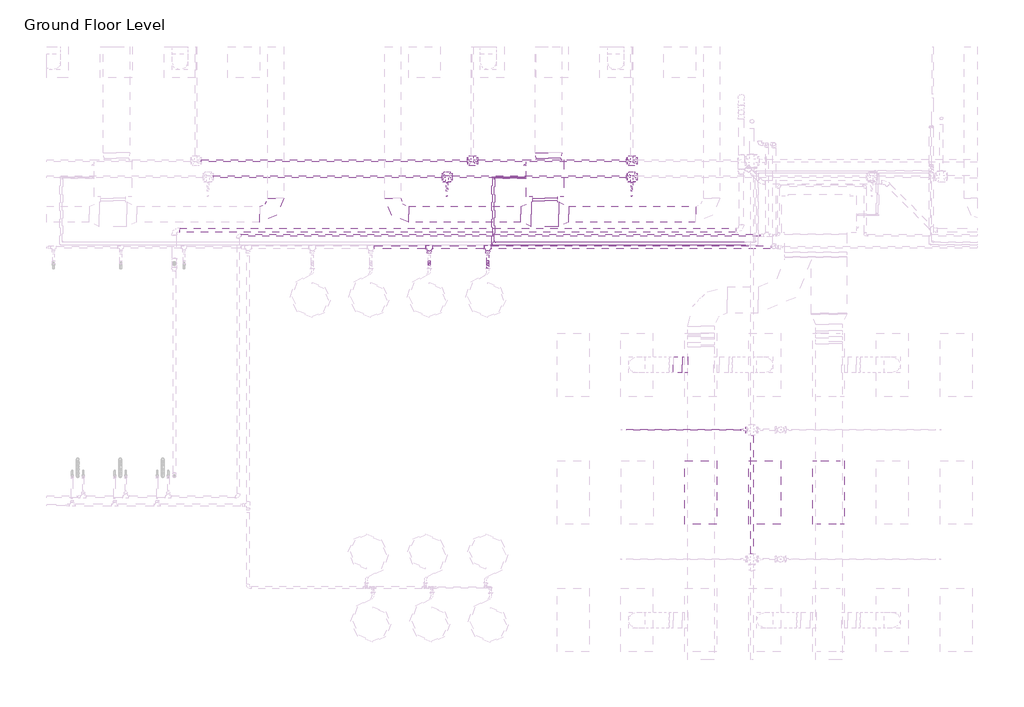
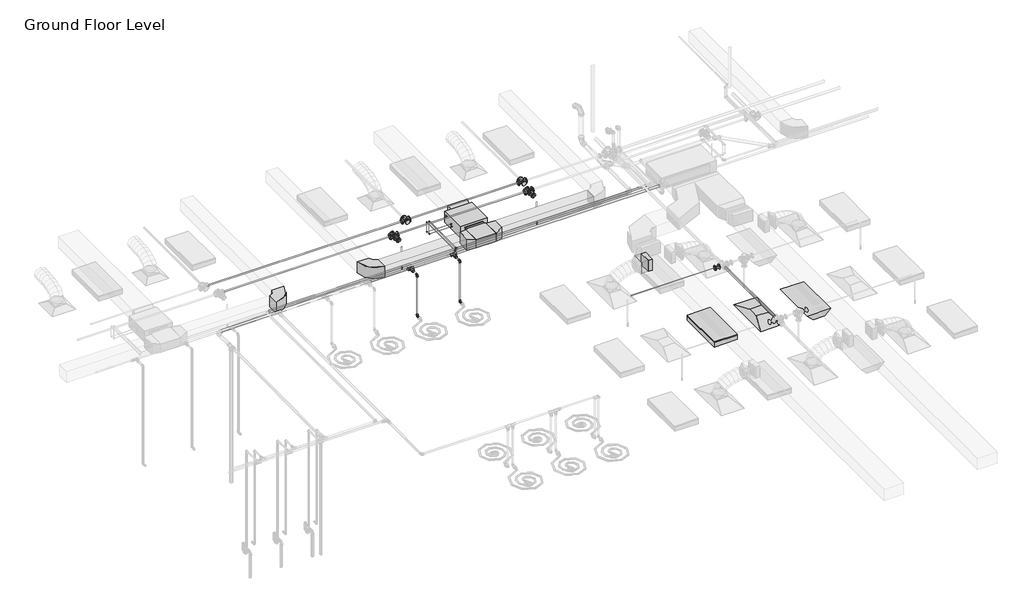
# One storey, part 48 of 74: 27 pipe segments, 21 pipe fittings, 9 duct fittings, 4 duct segments, 2 fire suppression terminals, 2 light fixtures, 1 air terminal, 1 proxy.
"""IFC4 building model written with IfcOpenShell, lengths in millimetres."""

from ifc_helpers import new_model, si_unit, point, frame, frame_2d, origin, place, context, project, spatial, polyline, circle_curve, trimmed, segment, composite_curve, outline, extrude, transform, mapped, element, save
from components import m_return_diffuser_1200x600_1200_x_600_face_300_x_300_d1983ef6, fcu_daikin_iu_bad131e0, m_rectangular_elbow_radius_1_w_618da153, m_rectangular_takeoff_standard_2be5eba1, m_rectangular_tee_standard_fa4de0e8, m_rectangular_transition_angle_45_degree_5a11b24e, m_rectangular_transition_angle_45_degree_27e6000f, m_rectangular_transition_angle_45_degree_1c32c0a1, m_rectangular_transition_angle_45_degree_6e5ad010, m_sprinkler_pendent_15_mm_pendent_06fcbd8e, m_emergency_recessed_lighting_fixture_600x1200_277_5b10b25d, m_troffer_light_parabolic_rectangular1_0600x1200mm_4_lamp_86473d4a, m_elbow_generic_standard_a088f956, m_elbow_generic_standard_2a704253, m_elbow_generic_standard_6b1a80c6, m_elbow_generic_standard_5542be81, m_reducer_flanged_cs_class_150_standard_ccf252ad, m_reducer_flanged_cs_class_150_standard_83138b42, m_tee_generic_standard_5b2ed4d4, m_tee_generic_standard_25a94648, m_tee_round_base_flanged_cs_class_150_standard_7e5987a1, standard_517a5a8d, standard_cd25fed3, standard_f1337950

model = new_model("IFC4")

# Units and contexts
model_context = context("Model", 3, world=origin())
ifc_project = project(units=[si_unit("LENGTHUNIT", "METRE", prefix="MILLI")], contexts=[model_context])

# Site, building, storey
site = spatial("IfcSite", under=ifc_project)
building = spatial("IfcBuilding", under=site)
storey = spatial("IfcBuildingStorey", under=building, Name="Ground Floor Level", Elevation=900.0)

# Air terminal
placement = place(None, origin())
m_return_diffuser_1200x600_1200_x_600_face_300_x_300_shape = m_return_diffuser_1200x600_1200_x_600_face_300_x_300_d1983ef6(model_context)
element("IfcAirTerminal", 1, ObjectType="M_Return Diffuser 1200x600 : 1200 x 600 Face 300 x 300 Connection", at=placement, inside=storey, context=model_context, shape_type="MappedRepresentation", body=[
    mapped(m_return_diffuser_1200x600_1200_x_600_face_300_x_300_shape, transform((-5737.2327605, 8835.2153534, 3650.0), x_axis=(0.0, 1.0, 0.0), y_axis=(-1.0, 0.0, 0.0), z_axis=(0.0, 0.0, 1.0))),
])

# Proxy
fcu_daikin_iu_shape = fcu_daikin_iu_bad131e0(model_context)
element("IfcBuildingElementProxy", 2, Name="FCU-DAIKIN IU : 4.5kW, 230V/50Hz/1Ph", ObjectType="FCU-DAIKIN IU : 4.5kW, 230V/50Hz/1Ph", at=placement, inside=storey, context=model_context, shape_type="MappedRepresentation", body=[
    mapped(fcu_daikin_iu_shape, transform((-9872.2327605, 14745.2153534, 3934.0872564), x_axis=(-1.0, 0.0, 0.0), y_axis=(0.0, -1.0, 0.0), z_axis=(0.0, 0.0, 1.0))),
])

# Duct fittings
m_rectangular_elbow_radius_1_w_shape = m_rectangular_elbow_radius_1_w_618da153(model_context)
element("IfcDuctFitting", 3, ObjectType="M_Rectangular Elbow - Radius : 1 W", at=placement, inside=storey, context=model_context, shape_type="MappedRepresentation", body=[
    mapped(m_rectangular_elbow_radius_1_w_shape, transform((-14937.2327605, 14069.8153534, 4075.2881511), x_axis=(1.0, 0.0, 0.0), y_axis=(0.0, 1.0, 0.0), z_axis=(0.0, 0.0, 1.0))),
])
element("IfcDuctFitting", 4, ObjectType="M_Rectangular Elbow - Radius : 1 W", at=placement, inside=storey, context=model_context, shape_type="MappedRepresentation", body=[
    mapped(m_rectangular_elbow_radius_1_w_shape, transform((-12737.2327605, 14069.8153534, 4075.2872564), x_axis=(0.0, -1.0, 0.0), y_axis=(1.0, 0.0, 0.0), z_axis=(0.0, 0.0, 1.0))),
])
m_rectangular_takeoff_standard_shape = m_rectangular_takeoff_standard_2be5eba1(model_context)
element("IfcDuctFitting", 5, ObjectType="M_Rectangular Takeoff : Standard", at=placement, inside=storey, context=model_context, shape_type="MappedRepresentation", body=[
    mapped(m_rectangular_takeoff_standard_shape, transform((-7189.6910789, 11235.2153534, 4150.0), x_axis=(-1.0, 0.0, 0.0), y_axis=(0.0, 1.0, 0.0), z_axis=(0.0, 0.0, -1.0))),
])
m_rectangular_tee_standard_shape = m_rectangular_tee_standard_fa4de0e8(model_context)
element("IfcDuctFitting", 6, ObjectType="M_Rectangular Tee : Standard", at=placement, inside=storey, context=model_context, shape_type="MappedRepresentation", body=[
    mapped(m_rectangular_tee_standard_shape, transform((-9872.2327605, 14069.8153534, 4075.2872564), x_axis=(-1.0, 0.0, 0.0), y_axis=(0.0, -1.0, 0.0), z_axis=(0.0, 0.0, 1.0))),
])
m_rectangular_transition_angle_45_degree_shape = m_rectangular_transition_angle_45_degree_5a11b24e(model_context)
element("IfcDuctFitting", 7, ObjectType="M_Rectangular Transition - Angle : 45 Degree", at=placement, inside=storey, context=model_context, shape_type="MappedRepresentation", body=[
    mapped(m_rectangular_transition_angle_45_degree_shape, transform((-9808.7327605, 15120.6153534, 4099.9997564), x_axis=(0.0, 1.0, 0.0), y_axis=(-1.0, 0.0, 0.0), z_axis=(0.0, 0.0, 1.0))),
])
m_rectangular_transition_angle_45_degree_2_shape = m_rectangular_transition_angle_45_degree_27e6000f(model_context)
element("IfcDuctFitting", 8, ObjectType="M_Rectangular Transition - Angle : 45 Degree", at=placement, inside=storey, context=model_context, shape_type="MappedRepresentation", body=[
    mapped(m_rectangular_transition_angle_45_degree_2_shape, transform((-9872.2327605, 14369.8153534, 4075.2872564), x_axis=(0.0, -1.0, 0.0), y_axis=(1.0, 0.0, 0.0), z_axis=(0.0, 0.0, 1.0))),
])
m_rectangular_transition_angle_45_degree_3_shape = m_rectangular_transition_angle_45_degree_1c32c0a1(model_context)
element("IfcDuctFitting", 9, ObjectType="M_Rectangular Transition - Angle : 45 Degree", at=placement, inside=storey, context=model_context, shape_type="MappedRepresentation", body=[
    mapped(m_rectangular_transition_angle_45_degree_3_shape, transform((-9872.2327605, 14326.1149854, 4075.2872564), x_axis=(0.0, -1.0, 0.0), y_axis=(1.0, 0.0, 0.0), z_axis=(0.0, 0.0, 1.0))),
])
m_rectangular_transition_angle_45_degree_4_shape = m_rectangular_transition_angle_45_degree_6e5ad010(model_context)
element("IfcDuctFitting", 10, ObjectType="M_Rectangular Transition - Angle : 45 Degree", at=placement, inside=storey, context=model_context, shape_type="MappedRepresentation", body=[
    mapped(m_rectangular_transition_angle_45_degree_4_shape, transform((-10128.1702605, 14069.8153534, 4075.2872564), x_axis=(-1.0, 0.0, 0.0), y_axis=(0.0, -1.0, 0.0), z_axis=(0.0, 0.0, 1.0))),
])
element("IfcDuctFitting", 11, ObjectType="M_Rectangular Transition - Angle : 45 Degree", at=placement, inside=storey, context=model_context, shape_type="MappedRepresentation", body=[
    mapped(m_rectangular_transition_angle_45_degree_4_shape, transform((-9616.2952605, 14069.8153534, 4075.2872564), x_axis=(1.0, 0.0, 0.0), y_axis=(0.0, 1.0, 0.0), z_axis=(0.0, 0.0, 1.0))),
])

# Duct segments
element("IfcDuctSegment", 12, ObjectType="Radius Elbows / Taps", at=placement, inside=storey, context=model_context, shape_type="SweptSolid", body=[
    extrude(outline(polyline([(-9420.8948503, 13919.8153534), (-9420.8948503, 14219.8153534), (-7037.2327605, 14219.8153534), (-7037.2327605, 13919.8153534), (-9420.8948503, 13919.8153534)])), frame((0.0, 0.0, 3925.2872564), z_axis=(0.0, 0.0, 1.0), x_axis=(1.0, 0.0, 0.0)), (0.0, 0.0, 1.0), 300.0),
])
element("IfcDuctSegment", 13, ObjectType="Radius Elbows / Taps", at=placement, inside=storey, context=model_context, shape_type="SweptSolid", body=[
    extrude(outline(polyline([(-12437.2327605, 13919.8153534), (-12437.2327605, 14219.8153534), (-10323.5706707, 14219.8153534), (-10323.5706707, 13919.8153534), (-12437.2327605, 13919.8153534)])), frame((0.0, 0.0, 3925.2872564), z_axis=(0.0, 0.0, 1.0), x_axis=(1.0, 0.0, 0.0)), (0.0, 0.0, 1.0), 300.0),
])
element("IfcDuctSegment", 14, ObjectType="Radius Elbows / Taps", at=placement, inside=storey, context=model_context, shape_type="SweptSolid", body=[
    extrude(outline(polyline([(-10103.2327605, 14369.4532214), (-9641.2327605, 14369.4532214), (-9641.2327605, 14326.1149854), (-10103.2327605, 14326.1149854), (-10103.2327605, 14369.4532214)])), frame((0.0, 0.0, 3968.2872564), z_axis=(0.0, 0.0, 1.0), x_axis=(1.0, 0.0, 0.0)), (0.0, 0.0, 1.0), 214.0),
])
element("IfcDuctSegment", 15, ObjectType="Radius Elbows / Taps", at=placement, inside=storey, context=model_context, shape_type="SweptSolid", body=[
    extrude(outline(polyline([(-7291.2910789, 11385.2153534), (-7291.2910789, 11085.2153534), (-7461.2487616, 11085.2153534), (-7461.2487616, 11385.2153534), (-7291.2910789, 11385.2153534)])), frame((0.0, 0.0, 4000.0), z_axis=(0.0, 0.0, 1.0), x_axis=(1.0, 0.0, 0.0)), (0.0, 0.0, 1.0), 300.0),
])

# Fire suppression terminals
m_sprinkler_pendent_15_mm_pendent_shape = m_sprinkler_pendent_15_mm_pendent_06fcbd8e(model_context)
element("IfcFireSuppressionTerminal", 16, ObjectType="M_Sprinkler - Pendent : 15 mm Pendent", at=placement, inside=storey, context=model_context, shape_type="MappedRepresentation", body=[
    mapped(m_sprinkler_pendent_15_mm_pendent_shape, transform((-11714.286216, 14412.7243649, 3650.0), x_axis=(1.0, 0.0, 0.0), y_axis=(0.0, 1.0, 0.0), z_axis=(0.0, 0.0, 1.0))),
])
element("IfcFireSuppressionTerminal", 17, ObjectType="M_Sprinkler - Pendent : 15 mm Pendent", at=placement, inside=storey, context=model_context, shape_type="MappedRepresentation", body=[
    mapped(m_sprinkler_pendent_15_mm_pendent_shape, transform((-8237.2327605, 14412.7243649, 3650.0), x_axis=(1.0, 0.0, 0.0), y_axis=(0.0, 1.0, 0.0), z_axis=(0.0, 0.0, 1.0))),
])

# Light fixtures
m_emergency_recessed_lighting_fixture_600x1200_277_shape = m_emergency_recessed_lighting_fixture_600x1200_277_5b10b25d(model_context)
element("IfcLightFixture", 18, ObjectType="M_Emergency Recessed Lighting Fixture : 600x1200 - 277", at=placement, inside=storey, context=model_context, shape_type="MappedRepresentation", body=[
    mapped(m_emergency_recessed_lighting_fixture_600x1200_277_shape, transform((-4837.2327605, 8235.2153534, 3650.0), x_axis=(0.0, 1.0, 0.0), y_axis=(-1.0, 0.0, 0.0), z_axis=(0.0, 0.0, 1.0))),
])
m_troffer_light_parabolic_rectangular1_0600x1200mm_4_lamp_shape = m_troffer_light_parabolic_rectangular1_0600x1200mm_4_lamp_86473d4a(model_context)
element("IfcLightFixture", 19, ObjectType="M_Troffer Light - Parabolic Rectangular1 : 0600x1200mm(4 Lamp) - 277V 2", at=placement, inside=storey, context=model_context, shape_type="MappedRepresentation", body=[
    mapped(m_troffer_light_parabolic_rectangular1_0600x1200mm_4_lamp_shape, transform((-6996.6986926, 8853.918855, 3650.0), x_axis=(0.0, 1.0, 0.0), y_axis=(-1.0, 0.0, 0.0), z_axis=(0.0, 0.0, 1.0))),
])

# Pipe fittings
m_elbow_generic_standard_shape = m_elbow_generic_standard_a088f956(model_context)
element("IfcPipeFitting", 20, ObjectType="M_Elbow - Generic : Standard", at=placement, inside=storey, context=model_context, shape_type="MappedRepresentation", body=[
    mapped(m_elbow_generic_standard_shape, transform((-10820.3327605, 14745.2153534, 4380.0), x_axis=(0.0, 0.0, 1.0), y_axis=(0.0, -1.0, 0.0), z_axis=(1.0, 0.0, 0.0))),
])
m_elbow_generic_standard_2_shape = m_elbow_generic_standard_2a704253(model_context)
element("IfcPipeFitting", 21, ObjectType="M_Elbow - Generic : Standard", at=placement, inside=storey, context=model_context, shape_type="MappedRepresentation", body=[
    mapped(m_elbow_generic_standard_2_shape, transform((-10870.0192947, 14770.2153534, 4365.0), x_axis=(0.0, 0.0, 1.0), y_axis=(0.0, -1.0, 0.0), z_axis=(1.0, 0.0, 0.0))),
])
m_elbow_generic_standard_3_shape = m_elbow_generic_standard_6b1a80c6(model_context)
element("IfcPipeFitting", 22, ObjectType="M_Elbow - Generic : Standard", at=placement, inside=storey, context=model_context, shape_type="MappedRepresentation", body=[
    mapped(m_elbow_generic_standard_3_shape, transform((-10820.3359808, 14745.2153534, 4034.0996164), x_axis=(-0.9999999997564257, 0.0, 2.2071440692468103e-05), y_axis=(2.2071440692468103e-05, 0.0, 0.9999999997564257), z_axis=(0.0, 1.0, 0.0))),
])
m_elbow_generic_standard_4_shape = m_elbow_generic_standard_5542be81(model_context)
element("IfcPipeFitting", 23, ObjectType="M_Elbow - Generic : Standard", at=placement, inside=storey, context=model_context, shape_type="MappedRepresentation", body=[
    mapped(m_elbow_generic_standard_4_shape, transform((-10870.0222525, 14770.2153534, 4084.8996164), x_axis=(0.0, 0.0, -1.0), y_axis=(1.0, 0.0, 0.0), z_axis=(0.0, -1.0, 0.0))),
])
m_reducer_flanged_cs_class_150_standard_shape = m_reducer_flanged_cs_class_150_standard_ccf252ad(model_context)
element("IfcPipeFitting", 24, ObjectType="M_Reducer - Flanged - CS - Class 150 : Standard", at=placement, inside=storey, context=model_context, shape_type="MappedRepresentation", body=[
    mapped(m_reducer_flanged_cs_class_150_standard_shape, transform((-11714.286216, 14672.759591, 4291.0943441), x_axis=(0.0, -1.0, 0.0), y_axis=(1.0, 0.0, 0.0), z_axis=(0.0, 0.0, 1.0))),
])
element("IfcPipeFitting", 25, ObjectType="M_Reducer - Flanged - CS - Class 150 : Standard", at=placement, inside=storey, context=model_context, shape_type="MappedRepresentation", body=[
    mapped(m_reducer_flanged_cs_class_150_standard_shape, transform((-8237.2327605, 14672.759591, 4291.0943441), x_axis=(0.0, -1.0, 0.0), y_axis=(1.0, 0.0, 0.0), z_axis=(0.0, 0.0, 1.0))),
])
m_reducer_flanged_cs_class_150_standard_2_shape = m_reducer_flanged_cs_class_150_standard_83138b42(model_context)
element("IfcPipeFitting", 26, ObjectType="M_Reducer - Flanged - CS - Class 150 : Standard", at=placement, inside=storey, context=model_context, shape_type="MappedRepresentation", body=[
    mapped(m_reducer_flanged_cs_class_150_standard_2_shape, transform((-6080.130502, 10013.008259, 4360.0), x_axis=(-1.0, 0.0, 0.0), y_axis=(0.0, 0.0, -1.0), z_axis=(0.0, -1.0, 0.0))),
])
m_tee_generic_standard_shape = m_tee_generic_standard_5b2ed4d4(model_context)
element("IfcPipeFitting", 27, ObjectType="M_Tee - Generic : Standard", at=placement, inside=storey, context=model_context, shape_type="MappedRepresentation", body=[
    mapped(m_tee_generic_standard_shape, transform((-10820.3327605, 13545.2153534, 4380.0), x_axis=(1.0, 0.0, 0.0), y_axis=(0.0, -1.0, 0.0), z_axis=(0.0, 0.0, -1.0))),
])
m_tee_generic_standard_2_shape = m_tee_generic_standard_25a94648(model_context)
element("IfcPipeFitting", 28, ObjectType="M_Tee - Generic : Standard", at=placement, inside=storey, context=model_context, shape_type="MappedRepresentation", body=[
    mapped(m_tee_generic_standard_2_shape, transform((-10870.0192947, 13494.0185138, 4365.0), x_axis=(-1.0, 0.0, 0.0), y_axis=(0.0, -1.0, 0.0), z_axis=(0.0, 0.0, 1.0))),
])
m_tee_round_base_flanged_cs_class_150_standard_shape = m_tee_round_base_flanged_cs_class_150_standard_7e5987a1(model_context)
element("IfcPipeFitting", 29, ObjectType="M_Tee Round Base - Flanged - CS - Class 150 : Standard", at=placement, inside=storey, context=model_context, shape_type="MappedRepresentation", body=[
    mapped(m_tee_round_base_flanged_cs_class_150_standard_shape, transform((-11714.286216, 14773.4681847, 4291.0943441), x_axis=(-1.0, 0.0, 0.0), y_axis=(0.0, 1.0, 0.0), z_axis=(0.0, 0.0, -1.0))),
])
element("IfcPipeFitting", 30, ObjectType="M_Tee Round Base - Flanged - CS - Class 150 : Standard", at=placement, inside=storey, context=model_context, shape_type="MappedRepresentation", body=[
    mapped(m_tee_round_base_flanged_cs_class_150_standard_shape, transform((-8237.2327605, 14773.4681847, 4291.0943441), x_axis=(-1.0, 0.0, 0.0), y_axis=(0.0, 1.0, 0.0), z_axis=(0.0, 0.0, -1.0))),
])
element("IfcPipeFitting", 31, ObjectType="M_Tee Round Base - Flanged - CS - Class 150 : Standard", at=placement, inside=storey, context=model_context, shape_type="MappedRepresentation", body=[
    mapped(m_tee_round_base_flanged_cs_class_150_standard_shape, transform((-11237.2327605, 15073.2009828, 4360.0), x_axis=(-1.0, 0.0, 0.0), y_axis=(0.0, -1.0, 0.0), z_axis=(0.0, 0.0, 1.0))),
])
element("IfcPipeFitting", 32, ObjectType="M_Tee Round Base - Flanged - CS - Class 150 : Standard", at=placement, inside=storey, context=model_context, shape_type="MappedRepresentation", body=[
    mapped(m_tee_round_base_flanged_cs_class_150_standard_shape, transform((-8237.2327605, 15073.2009828, 4360.0), x_axis=(-1.0, 0.0, 0.0), y_axis=(0.0, -1.0, 0.0), z_axis=(0.0, 0.0, 1.0))),
])
standard_shape = standard_517a5a8d(model_context)
element("IfcPipeFitting", 33, ObjectType="M_Elbow - CPVC - Sch 40 : Standard", at=placement, inside=storey, context=model_context, shape_type="MappedRepresentation", body=[
    mapped(standard_shape, transform((-12047.2327605, 13150.8347997, 4315.0), x_axis=(0.0, 0.0, 1.0), y_axis=(0.0, 1.0, 0.0), z_axis=(-1.0, 0.0, 0.0))),
])
element("IfcPipeFitting", 34, ObjectType="M_Elbow - CPVC - Sch 40 : Standard", at=placement, inside=storey, context=model_context, shape_type="MappedRepresentation", body=[
    mapped(standard_shape, transform((-10947.2327605, 13150.8347997, 4315.0), x_axis=(0.0, 0.0, 1.0), y_axis=(0.0, 1.0, 0.0), z_axis=(-1.0, 0.0, 0.0))),
])
element("IfcPipeFitting", 35, ObjectType="M_Elbow - CPVC - Sch 40 : Standard", at=placement, inside=storey, context=model_context, shape_type="MappedRepresentation", body=[
    mapped(standard_shape, transform((-12047.2327605, 13150.8347997, 3200.0), x_axis=(0.0, 0.0, -1.0), y_axis=(0.0, -1.0, 0.0), z_axis=(-1.0, 0.0, 0.0))),
])
element("IfcPipeFitting", 36, ObjectType="M_Elbow - CPVC - Sch 40 : Standard", at=placement, inside=storey, context=model_context, shape_type="MappedRepresentation", body=[
    mapped(standard_shape, transform((-10947.2327605, 13150.8347997, 3200.0), x_axis=(0.0, 0.0, -1.0), y_axis=(0.0, -1.0, 0.0), z_axis=(-1.0, 0.0, 0.0))),
])
standard_2_shape = standard_cd25fed3(model_context)
element("IfcPipeFitting", 37, ObjectType="M_Tee - CPVC - Sch 40 : Standard", at=placement, inside=storey, context=model_context, shape_type="MappedRepresentation", body=[
    mapped(standard_2_shape, transform((-12047.2327605, 13449.9865561, 4315.0), x_axis=(-1.0, 0.0, 0.0), y_axis=(0.0, 1.0, 0.0), z_axis=(0.0, 0.0, -1.0))),
])
element("IfcPipeFitting", 38, ObjectType="M_Tee - CPVC - Sch 40 : Standard", at=placement, inside=storey, context=model_context, shape_type="MappedRepresentation", body=[
    mapped(standard_2_shape, transform((-10947.2327605, 13449.9865561, 4315.0), x_axis=(1.0, 0.0, 0.0), y_axis=(0.0, 1.0, 0.0), z_axis=(0.0, 0.0, 1.0))),
])
standard_3_shape = standard_f1337950(model_context)
element("IfcPipeFitting", 39, ObjectType="M_Coupling Reducing - CPVC - Sch 40 : Standard", at=placement, inside=storey, context=model_context, shape_type="MappedRepresentation", body=[
    mapped(standard_3_shape, transform((-12047.2327605, 13383.3115561, 4315.0), x_axis=(0.0, -1.0, 0.0), y_axis=(1.0, 0.0, 0.0), z_axis=(0.0, 0.0, 1.0))),
])
element("IfcPipeFitting", 40, ObjectType="M_Coupling Reducing - CPVC - Sch 40 : Standard", at=placement, inside=storey, context=model_context, shape_type="MappedRepresentation", body=[
    mapped(standard_3_shape, transform((-10947.2327605, 13383.3115561, 4315.0), x_axis=(0.0, -1.0, 0.0), y_axis=(1.0, 0.0, 0.0), z_axis=(0.0, 0.0, 1.0))),
])

# Pipe segments
element("IfcPipeSegment", 41, ObjectType="CPVC", at=placement, inside=storey, context=model_context, shape_type="SweptSolid", body=[
    extrude(outline(composite_curve([segment(trimmed(circle_curve(frame_2d((-12047.2327605, 13150.8347997)), 16.7005), [point((-12063.9332605, 13150.8347997))], [point((-12047.2327605, 13167.5352997))], False, "CARTESIAN"), True, "CONTINUOUS"), segment(trimmed(circle_curve(frame_2d((-12047.2327605, 13150.8347997)), 16.7005), [point((-12047.2327605, 13167.5352997))], [point((-12030.5322605, 13150.8347997))], False, "CARTESIAN"), True, "CONTINUOUS"), segment(trimmed(circle_curve(frame_2d((-12047.2327605, 13150.8347997)), 16.7005), [point((-12030.5322605, 13150.8347997))], [point((-12047.2327605, 13134.1342997))], False, "CARTESIAN"), True, "CONTINUOUS"), segment(trimmed(circle_curve(frame_2d((-12047.2327605, 13150.8347997)), 16.7005), [point((-12047.2327605, 13134.1342997))], [point((-12063.9332605, 13150.8347997))], False, "CARTESIAN"), True, "CONTINUOUS")], self_intersect=False)), frame((0.0, 0.0, 3243.26255), z_axis=(0.0, 0.0, 1.0), x_axis=(1.0, 0.0, 0.0)), (0.0, 0.0, 1.0), 1028.4749),
])
element("IfcPipeSegment", 42, ObjectType="CPVC", at=placement, inside=storey, context=model_context, shape_type="SweptSolid", body=[
    extrude(outline(composite_curve([segment(trimmed(circle_curve(frame_2d((3200.0, -10947.2327605)), 16.7005), [point((3200.0, -10963.9332605))], [point((3183.2995, -10947.2327605))], False, "CARTESIAN"), True, "CONTINUOUS"), segment(trimmed(circle_curve(frame_2d((3200.0, -10947.2327605)), 16.7005), [point((3183.2995, -10947.2327605))], [point((3200.0, -10930.5322605))], False, "CARTESIAN"), True, "CONTINUOUS"), segment(trimmed(circle_curve(frame_2d((3200.0, -10947.2327605)), 16.7005), [point((3200.0, -10930.5322605))], [point((3216.7005, -10947.2327605))], False, "CARTESIAN"), True, "CONTINUOUS"), segment(trimmed(circle_curve(frame_2d((3200.0, -10947.2327605)), 16.7005), [point((3216.7005, -10947.2327605))], [point((3200.0, -10963.9332605))], False, "CARTESIAN"), True, "CONTINUOUS")], self_intersect=False)), frame((0.0, 13056.8347997, 0.0), z_axis=(0.0, 1.0, 0.0), x_axis=(0.0, 0.0, 1.0)), (0.0, 0.0, 1.0), 50.73745),
])
element("IfcPipeSegment", 43, ObjectType="CPVC", at=placement, inside=storey, context=model_context, shape_type="SweptSolid", body=[
    extrude(outline(composite_curve([segment(trimmed(circle_curve(frame_2d((4315.0, -10947.2327605)), 16.7005), [point((4315.0, -10930.5322605))], [point((4331.7005, -10947.2327605))], False, "CARTESIAN"), True, "CONTINUOUS"), segment(trimmed(circle_curve(frame_2d((4315.0, -10947.2327605)), 16.7005), [point((4331.7005, -10947.2327605))], [point((4315.0, -10963.9332605))], False, "CARTESIAN"), True, "CONTINUOUS"), segment(trimmed(circle_curve(frame_2d((4315.0, -10947.2327605)), 16.7005), [point((4315.0, -10963.9332605))], [point((4298.2995, -10947.2327605))], False, "CARTESIAN"), True, "CONTINUOUS"), segment(trimmed(circle_curve(frame_2d((4315.0, -10947.2327605)), 16.7005), [point((4298.2995, -10947.2327605))], [point((4315.0, -10930.5322605))], False, "CARTESIAN"), True, "CONTINUOUS")], self_intersect=False)), frame((0.0, 13194.0973497, 0.0), z_axis=(0.0, 1.0, 0.0), x_axis=(0.0, 0.0, 1.0)), (0.0, 0.0, 1.0), 109.4153315),
])
element("IfcPipeSegment", 44, ObjectType="CPVC", at=placement, inside=storey, context=model_context, shape_type="SweptSolid", body=[
    extrude(outline(composite_curve([segment(trimmed(circle_curve(frame_2d((-10947.2327605, 13150.8347997)), 16.7005), [point((-10963.9332605, 13150.8347997))], [point((-10947.2327605, 13167.5352997))], False, "CARTESIAN"), True, "CONTINUOUS"), segment(trimmed(circle_curve(frame_2d((-10947.2327605, 13150.8347997)), 16.7005), [point((-10947.2327605, 13167.5352997))], [point((-10930.5322605, 13150.8347997))], False, "CARTESIAN"), True, "CONTINUOUS"), segment(trimmed(circle_curve(frame_2d((-10947.2327605, 13150.8347997)), 16.7005), [point((-10930.5322605, 13150.8347997))], [point((-10947.2327605, 13134.1342997))], False, "CARTESIAN"), True, "CONTINUOUS"), segment(trimmed(circle_curve(frame_2d((-10947.2327605, 13150.8347997)), 16.7005), [point((-10947.2327605, 13134.1342997))], [point((-10963.9332605, 13150.8347997))], False, "CARTESIAN"), True, "CONTINUOUS")], self_intersect=False)), frame((0.0, 0.0, 3243.26255), z_axis=(0.0, 0.0, 1.0), x_axis=(1.0, 0.0, 0.0)), (0.0, 0.0, 1.0), 1028.4749),
])
element("IfcPipeSegment", 45, ObjectType="CPVC", at=placement, inside=storey, context=model_context, shape_type="SweptSolid", body=[
    extrude(outline(composite_curve([segment(trimmed(circle_curve(frame_2d((13449.9865561, 4315.0)), 30.1625), [point((13419.8240561, 4315.0))], [point((13449.9865561, 4345.1625))], False, "CARTESIAN"), True, "CONTINUOUS"), segment(trimmed(circle_curve(frame_2d((13449.9865561, 4315.0)), 30.1625), [point((13449.9865561, 4345.1625))], [point((13480.1490561, 4315.0))], False, "CARTESIAN"), True, "CONTINUOUS"), segment(trimmed(circle_curve(frame_2d((13449.9865561, 4315.0)), 30.1625), [point((13480.1490561, 4315.0))], [point((13449.9865561, 4284.8375))], False, "CARTESIAN"), True, "CONTINUOUS"), segment(trimmed(circle_curve(frame_2d((13449.9865561, 4315.0)), 30.1625), [point((13449.9865561, 4284.8375))], [point((13419.8240561, 4315.0))], False, "CARTESIAN"), True, "CONTINUOUS")], self_intersect=False)), frame((-13080.5577605, 0.0, 0.0), z_axis=(1.0, 0.0, 0.0), x_axis=(0.0, 1.0, 0.0)), (0.0, 0.0, 1.0), 966.65),
])
element("IfcPipeSegment", 46, ObjectType="CPVC", at=placement, inside=storey, context=model_context, shape_type="SweptSolid", body=[
    extrude(outline(composite_curve([segment(trimmed(circle_curve(frame_2d((13449.9865561, 4315.0)), 30.1625), [point((13419.8240561, 4315.0))], [point((13449.9865561, 4345.1625))], False, "CARTESIAN"), True, "CONTINUOUS"), segment(trimmed(circle_curve(frame_2d((13449.9865561, 4315.0)), 30.1625), [point((13449.9865561, 4345.1625))], [point((13480.1490561, 4315.0))], False, "CARTESIAN"), True, "CONTINUOUS"), segment(trimmed(circle_curve(frame_2d((13449.9865561, 4315.0)), 30.1625), [point((13480.1490561, 4315.0))], [point((13449.9865561, 4284.8375))], False, "CARTESIAN"), True, "CONTINUOUS"), segment(trimmed(circle_curve(frame_2d((13449.9865561, 4315.0)), 30.1625), [point((13449.9865561, 4284.8375))], [point((13419.8240561, 4315.0))], False, "CARTESIAN"), True, "CONTINUOUS")], self_intersect=False)), frame((-11980.5577605, 0.0, 0.0), z_axis=(1.0, 0.0, 0.0), x_axis=(0.0, 1.0, 0.0)), (0.0, 0.0, 1.0), 966.65),
])
element("IfcPipeSegment", 47, ObjectType="CPVC", at=placement, inside=storey, context=model_context, shape_type="SweptSolid", body=[
    extrude(outline(composite_curve([segment(trimmed(circle_curve(frame_2d((13675.2153534, 4250.0)), 21.082), [point((13654.1333534, 4250.0))], [point((13675.2153534, 4271.082))], False, "CARTESIAN"), True, "CONTINUOUS"), segment(trimmed(circle_curve(frame_2d((13675.2153534, 4250.0)), 21.082), [point((13675.2153534, 4271.082))], [point((13696.2973534, 4250.0))], False, "CARTESIAN"), True, "CONTINUOUS"), segment(trimmed(circle_curve(frame_2d((13675.2153534, 4250.0)), 21.082), [point((13696.2973534, 4250.0))], [point((13675.2153534, 4228.918))], False, "CARTESIAN"), True, "CONTINUOUS"), segment(trimmed(circle_curve(frame_2d((13675.2153534, 4250.0)), 21.082), [point((13675.2153534, 4228.918))], [point((13654.1333534, 4250.0))], False, "CARTESIAN"), True, "CONTINUOUS")], self_intersect=False)), frame((-15584.8736174, 0.0, 0.0), z_axis=(1.0, 0.0, 0.0), x_axis=(0.0, 1.0, 0.0)), (0.0, 0.0, 1.0), 9750.0786527),
])
element("IfcPipeSegment", 48, ObjectType="CPVC", at=placement, inside=storey, context=model_context, shape_type="SweptSolid", body=[
    extrude(outline(composite_curve([segment(trimmed(circle_curve(frame_2d((13449.9865561, 4315.0)), 30.1625), [point((13419.8240561, 4315.0))], [point((13449.9865561, 4345.1625))], False, "CARTESIAN"), True, "CONTINUOUS"), segment(trimmed(circle_curve(frame_2d((13449.9865561, 4315.0)), 30.1625), [point((13449.9865561, 4345.1625))], [point((13480.1490561, 4315.0))], False, "CARTESIAN"), True, "CONTINUOUS"), segment(trimmed(circle_curve(frame_2d((13449.9865561, 4315.0)), 30.1625), [point((13480.1490561, 4315.0))], [point((13449.9865561, 4284.8375))], False, "CARTESIAN"), True, "CONTINUOUS"), segment(trimmed(circle_curve(frame_2d((13449.9865561, 4315.0)), 30.1625), [point((13449.9865561, 4284.8375))], [point((13419.8240561, 4315.0))], False, "CARTESIAN"), True, "CONTINUOUS")], self_intersect=False)), frame((-10880.5577605, 0.0, 0.0), z_axis=(1.0, 0.0, 0.0), x_axis=(0.0, 1.0, 0.0)), (0.0, 0.0, 1.0), 5253.0113849),
])
element("IfcPipeSegment", 49, ObjectType="Copper", at=placement, inside=storey, context=model_context, shape_type="SweptSolid", body=[
    extrude(outline(composite_curve([segment(trimmed(circle_curve(frame_2d((0.0, -3.35)), 3.35), [point((-3.35, -3.35))], [point((0.0, 0.0))], False, "CARTESIAN"), True, "CONTINUOUS"), segment(trimmed(circle_curve(frame_2d((0.0, -3.35)), 3.35), [point((0.0, 0.0))], [point((3.35, -3.35))], False, "CARTESIAN"), True, "CONTINUOUS"), segment(trimmed(circle_curve(frame_2d((0.0, -3.35)), 3.35), [point((3.35, -3.35))], [point((0.0, -6.7))], False, "CARTESIAN"), True, "CONTINUOUS"), segment(trimmed(circle_curve(frame_2d((0.0, -3.35)), 3.35), [point((0.0, -6.7))], [point((-3.35, -3.35))], False, "CARTESIAN"), True, "CONTINUOUS")], self_intersect=False)), frame((-10260.3328284, 14770.2153534, 4081.5372564), z_axis=(-0.9999999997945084, 0.0, 2.0272724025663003e-05), x_axis=(0.0, 1.0, 0.0)), (0.0, 0.0, 1.0), 598.5522179),
])
element("IfcPipeSegment", 50, ObjectType="Copper", at=placement, inside=storey, context=model_context, shape_type="SweptSolid", body=[
    extrude(outline(composite_curve([segment(trimmed(circle_curve(frame_2d((4365.0, -10870.0192947)), 3.35), [point((4365.0, -10873.3692947))], [point((4361.65, -10870.0192947))], False, "CARTESIAN"), True, "CONTINUOUS"), segment(trimmed(circle_curve(frame_2d((4365.0, -10870.0192947)), 3.35), [point((4361.65, -10870.0192947))], [point((4365.0, -10866.6692947))], False, "CARTESIAN"), True, "CONTINUOUS"), segment(trimmed(circle_curve(frame_2d((4365.0, -10870.0192947)), 3.35), [point((4365.0, -10866.6692947))], [point((4368.35, -10870.0192947))], False, "CARTESIAN"), True, "CONTINUOUS"), segment(trimmed(circle_curve(frame_2d((4365.0, -10870.0192947)), 3.35), [point((4368.35, -10870.0192947))], [point((4365.0, -10873.3692947))], False, "CARTESIAN"), True, "CONTINUOUS")], self_intersect=False)), frame((0.0, 13511.5060138, 0.0), z_axis=(0.0, 1.0, 0.0), x_axis=(0.0, 0.0, 1.0)), (0.0, 0.0, 1.0), 1247.5718396),
])
element("IfcPipeSegment", 51, ObjectType="Copper", at=placement, inside=storey, context=model_context, shape_type="SweptSolid", body=[
    extrude(outline(composite_curve([segment(trimmed(circle_curve(frame_2d((0.0, -3.35)), 3.35), [point((-3.35, -3.35))], [point((0.0, 0.0))], False, "CARTESIAN"), True, "CONTINUOUS"), segment(trimmed(circle_curve(frame_2d((0.0, -3.35)), 3.35), [point((0.0, 0.0))], [point((3.35, -3.35))], False, "CARTESIAN"), True, "CONTINUOUS"), segment(trimmed(circle_curve(frame_2d((0.0, -3.35)), 3.35), [point((3.35, -3.35))], [point((0.0, -6.7))], False, "CARTESIAN"), True, "CONTINUOUS"), segment(trimmed(circle_curve(frame_2d((0.0, -3.35)), 3.35), [point((0.0, -6.7))], [point((-3.35, -3.35))], False, "CARTESIAN"), True, "CONTINUOUS")], self_intersect=False)), frame((-10870.0222525, 14766.8653534, 4096.0368906), z_axis=(1.1472088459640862e-05, 0.0, 0.9999999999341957), x_axis=(-0.9999999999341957, 0.0, 1.1472088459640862e-05)), (0.0, 0.0, 1.0), 257.8256094),
])
element("IfcPipeSegment", 52, ObjectType="Copper", at=placement, inside=storey, context=model_context, shape_type="SweptSolid", body=[
    extrude(outline(composite_curve([segment(trimmed(circle_curve(frame_2d((0.0, 6.5)), 6.5), [point((-6.5, 6.5))], [point((0.0, 13.0))], False, "CARTESIAN"), True, "CONTINUOUS"), segment(trimmed(circle_curve(frame_2d((0.0, 6.5)), 6.5), [point((0.0, 13.0))], [point((6.5, 6.5))], False, "CARTESIAN"), True, "CONTINUOUS"), segment(trimmed(circle_curve(frame_2d((0.0, 6.5)), 6.5), [point((6.5, 6.5))], [point((0.0, 0.0))], False, "CARTESIAN"), True, "CONTINUOUS"), segment(trimmed(circle_curve(frame_2d((0.0, 6.5)), 6.5), [point((0.0, 0.0))], [point((-6.5, 6.5))], False, "CARTESIAN"), True, "CONTINUOUS")], self_intersect=False)), frame((-10260.332904, 14745.2153534, 4027.5872564), z_axis=(-0.9999999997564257, 0.0, 2.2071440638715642e-05), x_axis=(0.0, -1.0, 0.0)), (0.0, 0.0, 1.0), 545.7160357),
])
element("IfcPipeSegment", 53, ObjectType="Copper", at=placement, inside=storey, context=model_context, shape_type="SweptSolid", body=[
    extrude(outline(composite_curve([segment(trimmed(circle_curve(frame_2d((0.0, 6.5)), 6.5), [point((-6.4999999, 6.5))], [point((0.0, 13.0))], False, "CARTESIAN"), True, "CONTINUOUS"), segment(trimmed(circle_curve(frame_2d((0.0, 6.5)), 6.5), [point((0.0, 13.0))], [point((6.5, 6.5))], False, "CARTESIAN"), True, "CONTINUOUS"), segment(trimmed(circle_curve(frame_2d((0.0, 6.5)), 6.5), [point((6.5, 6.5))], [point((0.0, 0.0))], False, "CARTESIAN"), True, "CONTINUOUS"), segment(trimmed(circle_curve(frame_2d((0.0, 6.5)), 6.5), [point((0.0, 0.0))], [point((-6.4999999, 6.5))], False, "CARTESIAN"), True, "CONTINUOUS")], self_intersect=False)), frame((-10820.3359808, 14738.7153534, 4048.3868011), z_axis=(1.0148033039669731e-05, 0.0, 0.9999999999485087), x_axis=(0.9999999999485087, 0.0, -1.0148033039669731e-05)), (0.0, 0.0, 1.0), 317.3256989),
])
element("IfcPipeSegment", 54, ObjectType="Copper", at=placement, inside=storey, context=model_context, shape_type="SweptSolid", body=[
    extrude(outline(composite_curve([segment(trimmed(circle_curve(frame_2d((4380.0, -10820.3327605)), 6.5), [point((4380.0, -10826.8327605))], [point((4373.5, -10820.3327605))], False, "CARTESIAN"), True, "CONTINUOUS"), segment(trimmed(circle_curve(frame_2d((4380.0, -10820.3327605)), 6.5), [point((4373.5, -10820.3327605))], [point((4380.0, -10813.8327605))], False, "CARTESIAN"), True, "CONTINUOUS"), segment(trimmed(circle_curve(frame_2d((4380.0, -10820.3327605)), 6.5), [point((4380.0, -10813.8327605))], [point((4386.5, -10820.3327605))], False, "CARTESIAN"), True, "CONTINUOUS"), segment(trimmed(circle_curve(frame_2d((4380.0, -10820.3327605)), 6.5), [point((4386.5, -10820.3327605))], [point((4380.0, -10826.8327605))], False, "CARTESIAN"), True, "CONTINUOUS")], self_intersect=False)), frame((0.0, 13565.8528534, 0.0), z_axis=(0.0, 1.0, 0.0), x_axis=(0.0, 0.0, 1.0)), (0.0, 0.0, 1.0), 1165.075),
])
element("IfcPipeSegment", 55, ObjectType="Copper", at=placement, inside=storey, context=model_context, shape_type="SweptSolid", body=[
    extrude(outline(composite_curve([segment(trimmed(circle_curve(frame_2d((13545.2153534, 4380.0)), 6.5), [point((13538.7153534, 4380.0))], [point((13545.2153534, 4386.5))], False, "CARTESIAN"), True, "CONTINUOUS"), segment(trimmed(circle_curve(frame_2d((13545.2153534, 4380.0)), 6.5), [point((13545.2153534, 4386.5))], [point((13551.7153534, 4380.0))], False, "CARTESIAN"), True, "CONTINUOUS"), segment(trimmed(circle_curve(frame_2d((13545.2153534, 4380.0)), 6.5), [point((13551.7153534, 4380.0))], [point((13545.2153534, 4373.5))], False, "CARTESIAN"), True, "CONTINUOUS"), segment(trimmed(circle_curve(frame_2d((13545.2153534, 4380.0)), 6.5), [point((13545.2153534, 4373.5))], [point((13538.7153534, 4380.0))], False, "CARTESIAN"), True, "CONTINUOUS")], self_intersect=False)), frame((-10799.6952605, 0.0, 0.0), z_axis=(1.0, 0.0, 0.0), x_axis=(0.0, 1.0, 0.0)), (0.0, 0.0, 1.0), 4693.638441),
])
element("IfcPipeSegment", 56, ObjectType="Copper", at=placement, inside=storey, context=model_context, shape_type="SweptSolid", body=[
    extrude(outline(composite_curve([segment(trimmed(circle_curve(frame_2d((13494.0185138, 4365.0)), 3.35), [point((13490.6685138, 4365.0))], [point((13494.0185138, 4368.35))], False, "CARTESIAN"), True, "CONTINUOUS"), segment(trimmed(circle_curve(frame_2d((13494.0185138, 4365.0)), 3.35), [point((13494.0185138, 4368.35))], [point((13497.3685138, 4365.0))], False, "CARTESIAN"), True, "CONTINUOUS"), segment(trimmed(circle_curve(frame_2d((13494.0185138, 4365.0)), 3.35), [point((13497.3685138, 4365.0))], [point((13494.0185138, 4361.65))], False, "CARTESIAN"), True, "CONTINUOUS"), segment(trimmed(circle_curve(frame_2d((13494.0185138, 4365.0)), 3.35), [point((13494.0185138, 4361.65))], [point((13490.6685138, 4365.0))], False, "CARTESIAN"), True, "CONTINUOUS")], self_intersect=False)), frame((-10852.5317947, 0.0, 0.0), z_axis=(1.0, 0.0, 0.0), x_axis=(0.0, 1.0, 0.0)), (0.0, 0.0, 1.0), 4777.0536918),
])
element("IfcPipeSegment", 57, ObjectType="PVC - DWV", at=placement, inside=storey, context=model_context, shape_type="SweptSolid", body=[
    extrude(outline(composite_curve([segment(trimmed(circle_curve(frame_2d((0.0, 36.5125)), 36.5125), [point((0.0, 0.0))], [point((-36.5125, 36.5125))], False, "CARTESIAN"), True, "CONTINUOUS"), segment(trimmed(circle_curve(frame_2d((0.0, 36.5125)), 36.5125), [point((-36.5125, 36.5125))], [point((0.0, 73.025))], False, "CARTESIAN"), True, "CONTINUOUS"), segment(trimmed(circle_curve(frame_2d((0.0, 36.5125)), 36.5125), [point((0.0, 73.025))], [point((36.5125, 36.5125))], False, "CARTESIAN"), True, "CONTINUOUS"), segment(trimmed(circle_curve(frame_2d((0.0, 36.5125)), 36.5125), [point((36.5125, 36.5125))], [point((0.0, 0.0))], False, "CARTESIAN"), True, "CONTINUOUS")], self_intersect=False)), frame((-16745.3067515, 13732.2923932, 4051.2669274), z_axis=(0.9999500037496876, 0.0, 0.00999950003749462), x_axis=(0.00999950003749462, 0.0, -0.9999500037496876)), (0.0, 0.0, 1.0), 10467.6468574),
])
element("IfcPipeSegment", 58, ObjectType="Steel flanged", at=placement, inside=storey, context=model_context, shape_type="SweptSolid", body=[
    extrude(outline(composite_curve([segment(trimmed(circle_curve(frame_2d((-11714.286216, 14412.7243649)), 10.668), [point((-11724.954216, 14412.7243649))], [point((-11714.286216, 14423.3923649))], False, "CARTESIAN"), True, "CONTINUOUS"), segment(trimmed(circle_curve(frame_2d((-11714.286216, 14412.7243649)), 10.668), [point((-11714.286216, 14423.3923649))], [point((-11703.618216, 14412.7243649))], False, "CARTESIAN"), True, "CONTINUOUS"), segment(trimmed(circle_curve(frame_2d((-11714.286216, 14412.7243649)), 10.668), [point((-11703.618216, 14412.7243649))], [point((-11714.286216, 14402.0563649))], False, "CARTESIAN"), True, "CONTINUOUS"), segment(trimmed(circle_curve(frame_2d((-11714.286216, 14412.7243649)), 10.668), [point((-11714.286216, 14402.0563649))], [point((-11724.954216, 14412.7243649))], False, "CARTESIAN"), True, "CONTINUOUS")], self_intersect=False)), frame((0.0, 0.0, 3650.0), z_axis=(0.0, 0.0, 1.0), x_axis=(1.0, 0.0, 0.0)), (0.0, 0.0, 1.0), 548.2668816),
])
element("IfcPipeSegment", 59, ObjectType="Steel flanged", at=placement, inside=storey, context=model_context, shape_type="SweptSolid", body=[
    extrude(outline(composite_curve([segment(trimmed(circle_curve(frame_2d((4291.0943441, -11714.286216)), 10.668), [point((4291.0943441, -11703.618216))], [point((4301.7623441, -11714.286216))], False, "CARTESIAN"), True, "CONTINUOUS"), segment(trimmed(circle_curve(frame_2d((4291.0943441, -11714.286216)), 10.668), [point((4301.7623441, -11714.286216))], [point((4291.0943441, -11724.954216))], False, "CARTESIAN"), True, "CONTINUOUS"), segment(trimmed(circle_curve(frame_2d((4291.0943441, -11714.286216)), 10.668), [point((4291.0943441, -11724.954216))], [point((4280.4263441, -11714.286216))], False, "CARTESIAN"), True, "CONTINUOUS"), segment(trimmed(circle_curve(frame_2d((4291.0943441, -11714.286216)), 10.668), [point((4280.4263441, -11714.286216))], [point((4291.0943441, -11703.618216))], False, "CARTESIAN"), True, "CONTINUOUS")], self_intersect=False)), frame((0.0, 14505.7329586, 0.0), z_axis=(0.0, 1.0, 0.0), x_axis=(0.0, 0.0, 1.0)), (0.0, 0.0, 1.0), 53.0266324),
])
element("IfcPipeSegment", 60, ObjectType="Steel flanged", at=placement, inside=storey, context=model_context, shape_type="SweptSolid", body=[
    extrude(outline(composite_curve([segment(trimmed(circle_curve(frame_2d((14773.4681847, 4291.0943441)), 16.7005), [point((14756.7676847, 4291.0943441))], [point((14773.4681847, 4307.7948441))], False, "CARTESIAN"), True, "CONTINUOUS"), segment(trimmed(circle_curve(frame_2d((14773.4681847, 4291.0943441)), 16.7005), [point((14773.4681847, 4307.7948441))], [point((14790.1686847, 4291.0943441))], False, "CARTESIAN"), True, "CONTINUOUS"), segment(trimmed(circle_curve(frame_2d((14773.4681847, 4291.0943441)), 16.7005), [point((14790.1686847, 4291.0943441))], [point((14773.4681847, 4274.3938441))], False, "CARTESIAN"), True, "CONTINUOUS"), segment(trimmed(circle_curve(frame_2d((14773.4681847, 4291.0943441)), 16.7005), [point((14773.4681847, 4274.3938441))], [point((14756.7676847, 4291.0943441))], False, "CARTESIAN"), True, "CONTINUOUS")], self_intersect=False)), frame((-16109.4052562, 0.0, 0.0), z_axis=(1.0, 0.0, 0.0), x_axis=(0.0, 1.0, 0.0)), (0.0, 0.0, 1.0), 4294.4104464),
])
element("IfcPipeSegment", 61, ObjectType="Steel flanged", at=placement, inside=storey, context=model_context, shape_type="SweptSolid", body=[
    extrude(outline(composite_curve([segment(trimmed(circle_curve(frame_2d((-8237.2327605, 14412.7243649)), 10.668), [point((-8247.9007605, 14412.7243649))], [point((-8237.2327605, 14423.3923649))], False, "CARTESIAN"), True, "CONTINUOUS"), segment(trimmed(circle_curve(frame_2d((-8237.2327605, 14412.7243649)), 10.668), [point((-8237.2327605, 14423.3923649))], [point((-8226.5647605, 14412.7243649))], False, "CARTESIAN"), True, "CONTINUOUS"), segment(trimmed(circle_curve(frame_2d((-8237.2327605, 14412.7243649)), 10.668), [point((-8226.5647605, 14412.7243649))], [point((-8237.2327605, 14402.0563649))], False, "CARTESIAN"), True, "CONTINUOUS"), segment(trimmed(circle_curve(frame_2d((-8237.2327605, 14412.7243649)), 10.668), [point((-8237.2327605, 14402.0563649))], [point((-8247.9007605, 14412.7243649))], False, "CARTESIAN"), True, "CONTINUOUS")], self_intersect=False)), frame((0.0, 0.0, 3650.0), z_axis=(0.0, 0.0, 1.0), x_axis=(1.0, 0.0, 0.0)), (0.0, 0.0, 1.0), 548.2668816),
])
element("IfcPipeSegment", 62, ObjectType="Steel flanged", at=placement, inside=storey, context=model_context, shape_type="SweptSolid", body=[
    extrude(outline(composite_curve([segment(trimmed(circle_curve(frame_2d((4291.0943441, -8237.2327605)), 10.668), [point((4291.0943441, -8226.5647605))], [point((4301.7623441, -8237.2327605))], False, "CARTESIAN"), True, "CONTINUOUS"), segment(trimmed(circle_curve(frame_2d((4291.0943441, -8237.2327605)), 10.668), [point((4301.7623441, -8237.2327605))], [point((4291.0943441, -8247.9007605))], False, "CARTESIAN"), True, "CONTINUOUS"), segment(trimmed(circle_curve(frame_2d((4291.0943441, -8237.2327605)), 10.668), [point((4291.0943441, -8247.9007605))], [point((4280.4263441, -8237.2327605))], False, "CARTESIAN"), True, "CONTINUOUS"), segment(trimmed(circle_curve(frame_2d((4291.0943441, -8237.2327605)), 10.668), [point((4280.4263441, -8237.2327605))], [point((4291.0943441, -8226.5647605))], False, "CARTESIAN"), True, "CONTINUOUS")], self_intersect=False)), frame((0.0, 14505.7329586, 0.0), z_axis=(0.0, 1.0, 0.0), x_axis=(0.0, 0.0, 1.0)), (0.0, 0.0, 1.0), 53.0266324),
])
element("IfcPipeSegment", 63, ObjectType="Steel flanged", at=placement, inside=storey, context=model_context, shape_type="SweptSolid", body=[
    extrude(outline(composite_curve([segment(trimmed(circle_curve(frame_2d((14773.4681847, 4291.0943441)), 16.7005), [point((14756.7676847, 4291.0943441))], [point((14773.4681847, 4307.7948441))], False, "CARTESIAN"), True, "CONTINUOUS"), segment(trimmed(circle_curve(frame_2d((14773.4681847, 4291.0943441)), 16.7005), [point((14773.4681847, 4307.7948441))], [point((14790.1686847, 4291.0943441))], False, "CARTESIAN"), True, "CONTINUOUS"), segment(trimmed(circle_curve(frame_2d((14773.4681847, 4291.0943441)), 16.7005), [point((14790.1686847, 4291.0943441))], [point((14773.4681847, 4274.3938441))], False, "CARTESIAN"), True, "CONTINUOUS"), segment(trimmed(circle_curve(frame_2d((14773.4681847, 4291.0943441)), 16.7005), [point((14773.4681847, 4274.3938441))], [point((14756.7676847, 4291.0943441))], False, "CARTESIAN"), True, "CONTINUOUS")], self_intersect=False)), frame((-11613.5776223, 0.0, 0.0), z_axis=(1.0, 0.0, 0.0), x_axis=(0.0, 1.0, 0.0)), (0.0, 0.0, 1.0), 3275.636268),
])
element("IfcPipeSegment", 64, ObjectType="Steel flanged", at=placement, inside=storey, context=model_context, shape_type="SweptSolid", body=[
    extrude(outline(composite_curve([segment(trimmed(circle_curve(frame_2d((15073.2009828, 4360.0)), 16.7005), [point((15056.5004828, 4360.0))], [point((15073.2009828, 4376.7005))], False, "CARTESIAN"), True, "CONTINUOUS"), segment(trimmed(circle_curve(frame_2d((15073.2009828, 4360.0)), 16.7005), [point((15073.2009828, 4376.7005))], [point((15089.9014828, 4360.0))], False, "CARTESIAN"), True, "CONTINUOUS"), segment(trimmed(circle_curve(frame_2d((15073.2009828, 4360.0)), 16.7005), [point((15089.9014828, 4360.0))], [point((15073.2009828, 4343.2995))], False, "CARTESIAN"), True, "CONTINUOUS"), segment(trimmed(circle_curve(frame_2d((15073.2009828, 4360.0)), 16.7005), [point((15073.2009828, 4343.2995))], [point((15056.5004828, 4360.0))], False, "CARTESIAN"), True, "CONTINUOUS")], self_intersect=False)), frame((-16336.5241668, 0.0, 0.0), z_axis=(1.0, 0.0, 0.0), x_axis=(0.0, 1.0, 0.0)), (0.0, 0.0, 1.0), 4998.5828125),
])
element("IfcPipeSegment", 65, ObjectType="Steel flanged", at=placement, inside=storey, context=model_context, shape_type="SweptSolid", body=[
    extrude(outline(composite_curve([segment(trimmed(circle_curve(frame_2d((15073.2009828, 4360.0)), 16.7005), [point((15056.5004828, 4360.0))], [point((15073.2009828, 4376.7005))], False, "CARTESIAN"), True, "CONTINUOUS"), segment(trimmed(circle_curve(frame_2d((15073.2009828, 4360.0)), 16.7005), [point((15073.2009828, 4376.7005))], [point((15089.9014828, 4360.0))], False, "CARTESIAN"), True, "CONTINUOUS"), segment(trimmed(circle_curve(frame_2d((15073.2009828, 4360.0)), 16.7005), [point((15089.9014828, 4360.0))], [point((15073.2009828, 4343.2995))], False, "CARTESIAN"), True, "CONTINUOUS"), segment(trimmed(circle_curve(frame_2d((15073.2009828, 4360.0)), 16.7005), [point((15073.2009828, 4343.2995))], [point((15056.5004828, 4360.0))], False, "CARTESIAN"), True, "CONTINUOUS")], self_intersect=False)), frame((-11136.5241668, 0.0, 0.0), z_axis=(1.0, 0.0, 0.0), x_axis=(0.0, 1.0, 0.0)), (0.0, 0.0, 1.0), 2798.5828125),
])
element("IfcPipeSegment", 66, ObjectType="Steel flanged", at=placement, inside=storey, context=model_context, shape_type="SweptSolid", body=[
    extrude(outline(composite_curve([segment(trimmed(circle_curve(frame_2d((10013.008259, 4360.0)), 10.668), [point((10002.340259, 4360.0))], [point((10013.008259, 4370.668))], False, "CARTESIAN"), True, "CONTINUOUS"), segment(trimmed(circle_curve(frame_2d((10013.008259, 4360.0)), 10.668), [point((10013.008259, 4370.668))], [point((10023.676259, 4360.0))], False, "CARTESIAN"), True, "CONTINUOUS"), segment(trimmed(circle_curve(frame_2d((10013.008259, 4360.0)), 10.668), [point((10023.676259, 4360.0))], [point((10013.008259, 4349.332))], False, "CARTESIAN"), True, "CONTINUOUS"), segment(trimmed(circle_curve(frame_2d((10013.008259, 4360.0)), 10.668), [point((10013.008259, 4349.332))], [point((10002.340259, 4360.0))], False, "CARTESIAN"), True, "CONTINUOUS")], self_intersect=False)), frame((-8344.2241668, 0.0, 0.0), z_axis=(1.0, 0.0, 0.0), x_axis=(0.0, 1.0, 0.0)), (0.0, 0.0, 1.0), 2150.0936648),
])
element("IfcPipeSegment", 67, ObjectType="Steel flanged", at=placement, inside=storey, context=model_context, shape_type="SweptSolid", body=[
    extrude(outline(composite_curve([segment(trimmed(circle_curve(frame_2d((4360.0, -5978.130502)), 24.13), [point((4360.0, -6002.260502))], [point((4335.87, -5978.130502))], False, "CARTESIAN"), True, "CONTINUOUS"), segment(trimmed(circle_curve(frame_2d((4360.0, -5978.130502)), 24.13), [point((4335.87, -5978.130502))], [point((4360.0, -5954.000502))], False, "CARTESIAN"), True, "CONTINUOUS"), segment(trimmed(circle_curve(frame_2d((4360.0, -5978.130502)), 24.13), [point((4360.0, -5954.000502))], [point((4384.13, -5978.130502))], False, "CARTESIAN"), True, "CONTINUOUS"), segment(trimmed(circle_curve(frame_2d((4360.0, -5978.130502)), 24.13), [point((4384.13, -5978.130502))], [point((4360.0, -6002.260502))], False, "CARTESIAN"), True, "CONTINUOUS")], self_intersect=False)), frame((0.0, 7684.7040742, 0.0), z_axis=(0.0, 1.0, 0.0), x_axis=(0.0, 0.0, 1.0)), (0.0, 0.0, 1.0), 2226.3041848),
])

save(model, "model.ifc")
